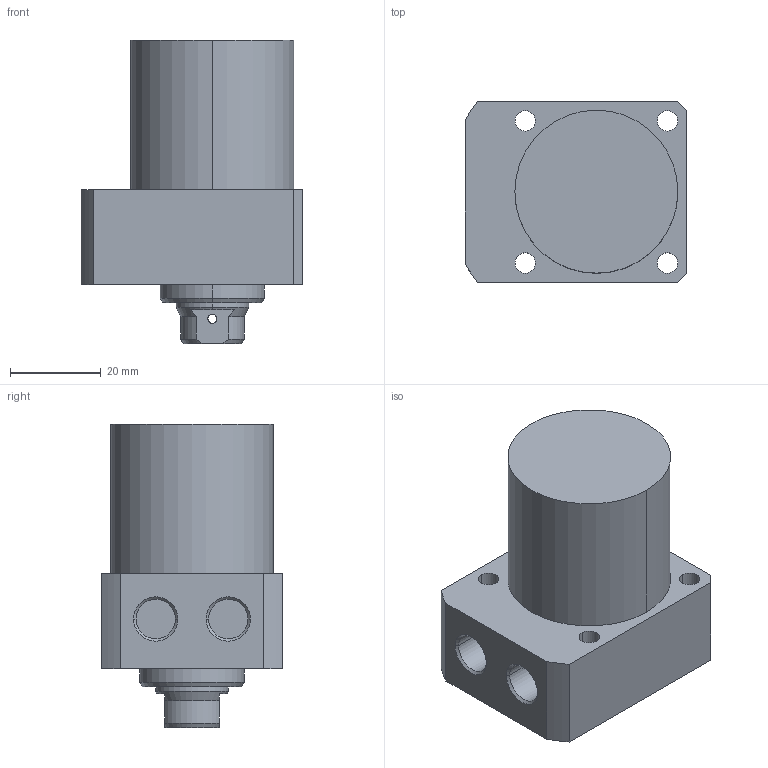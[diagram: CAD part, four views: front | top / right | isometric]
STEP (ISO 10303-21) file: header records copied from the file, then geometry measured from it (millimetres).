
FILE_DESCRIPTION((' '),'2;1');
FILE_NAME( 'TLLR-036CB-025.STEP.stp', '2025-10-24T16:35:45', (' '), ('--- Datakit www.datakit.com---'), ' Datakit CrossCadWare V2024.1 Dec 21 2023', 'Mastercam 2025', ' ');
FILE_SCHEMA(('AUTOMOTIVE_DESIGN { 1 0 10303 214 1 1 1 1 }'));
Length unit declared in the file: millimetre
Products named in the file (1): TLLR-036CB-025
Bounding box: 49 x 40 x 67 mm (x, y, z)
Volume: 74271.2 mm3; surface area: 13844.6 mm2
Topology: 1 solids, 1 shells, 65 faces, 192 edges, 133 vertices
Faces by surface type: cylinder 32, plane 19, cone 14
Entity records: 2878 total; most frequent: CARTESIAN_POINT 1013, DIRECTION 410, ORIENTED_EDGE 380, EDGE_CURVE 190, AXIS2_PLACEMENT_3D 170, VERTEX_POINT 133, CIRCLE 104, EDGE_LOOP 83
